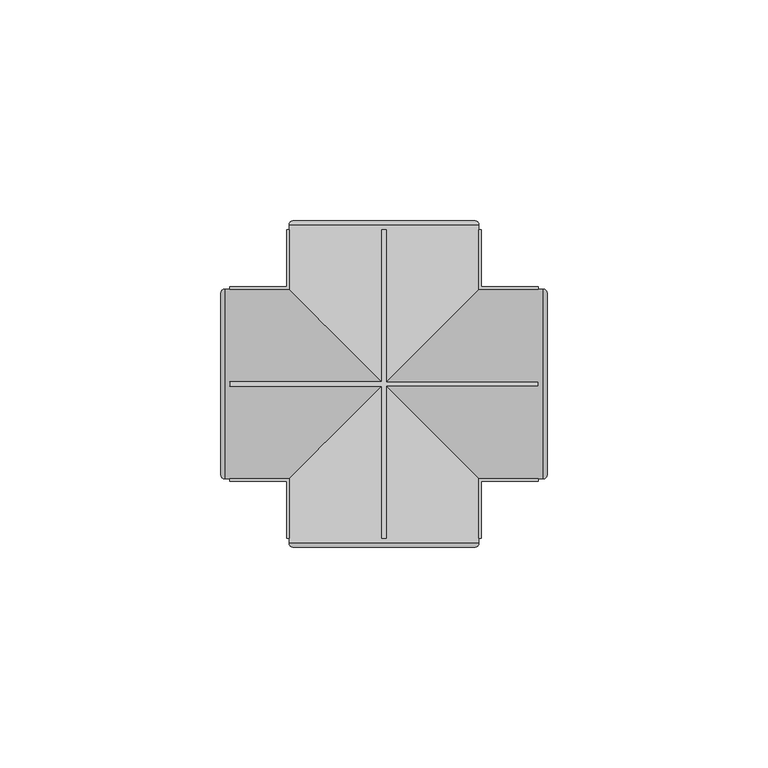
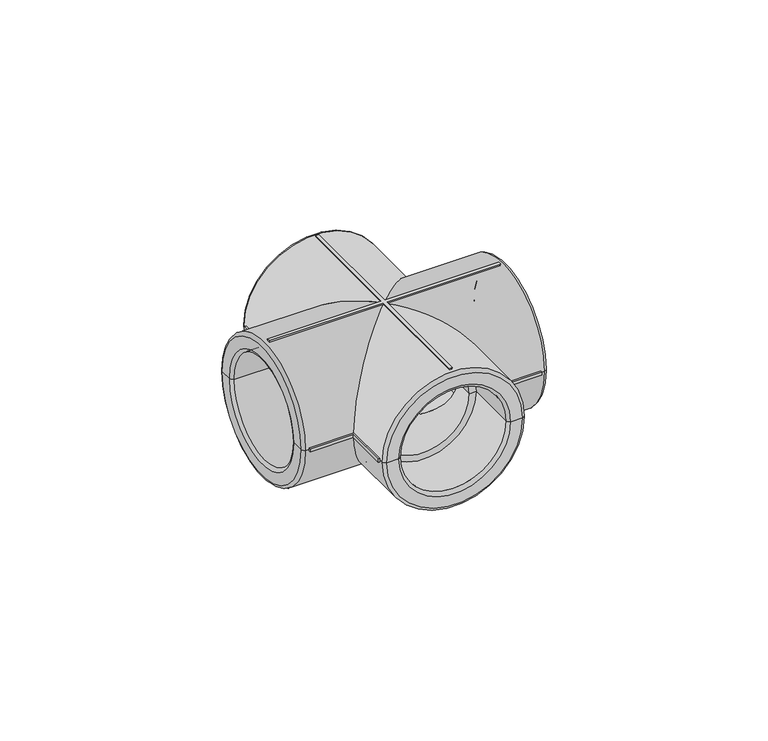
"""IFC4 building model written with IfcOpenShell, lengths in millimetres: pipe fitting geometry, EGB_VASEN_ PPR_Cruz WXR400 : EGB_VASEN_ PPR_Cruz WXR400."""

from ifc_helpers import new_model, si_unit, point, frame, origin, place, context, project, spatial, polyline, circle_curve, ellipse_curve, trimmed, source, transform, mapped, element, save
from ifc_brep_helpers import plane_surface, cylinder_surface, revolved_surface, advanced_brep


def pipe_fitting_7c3a9664(model_context):
    return source(origin(), model_context, "Body", "AdvancedBrep", [
        advanced_brep(
        [(-22.0, -35.0, 0.5), (-22.0, -35.0, -0.5), (-21.4941853, -35.0, -0.5), (-21.5, -35.0, 0.0), (-21.4941853, -35.0, 0.5), (22.0, -35.0, -0.5), (22.0, -35.0, 0.5), (21.4941853, -35.0, 0.5), (21.5, -35.0, 0.0), (21.4941853, -35.0, -0.5), (22.0, 35.0, 0.5), (22.0, 35.0, -0.5), (21.4941853, 35.0, -0.5), (21.5, 35.0, 0.0), (21.4941853, 35.0, 0.5), (-22.0, 35.0, -0.5), (-22.0, 35.0, 0.5), (-21.4941853, 35.0, 0.5), (-21.5, 35.0, 0.0), (-21.4941853, 35.0, -0.5), (22.0, -22.0, -0.5), (22.0, -22.0, 0.5), (22.0, 22.0, 0.5), (22.0, 22.0, -0.5), (21.4941853, -21.4941853, -0.5), (35.0, -21.4941853, -0.5), (35.0, -22.0, -0.5), (35.0, 22.0, -0.5), (35.0, 21.4941853, -0.5), (21.4941853, 21.4941853, -0.5), (-22.0, -22.0, -0.5), (-35.0, -22.0, -0.5), (-35.0, -21.4941853, -0.5), (-21.4941853, -21.4941853, -0.5), (-22.0, 22.0, -0.5), (-21.4941853, 21.4941853, -0.5), (-35.0, 21.4941853, -0.5), (-35.0, 22.0, -0.5), (-22.0, -22.0, 0.5), (-22.0, 22.0, 0.5), (35.0, -22.0, 0.5), (35.0, -21.4941853, 0.5), (21.4941853, -21.4941853, 0.5), (21.4941853, 21.4941853, 0.5), (35.0, 21.4941853, 0.5), (35.0, 22.0, 0.5), (-21.4941853, -21.4941853, 0.5), (-35.0, -21.4941853, 0.5), (-35.0, -22.0, 0.5), (-35.0, 22.0, 0.5), (-35.0, 21.4941853, 0.5), (-21.4941853, 21.4941853, 0.5), (35.0, -21.5, 0.0), (35.0, 21.5, 0.0), (-35.0, 21.5, 0.0), (-35.0, -21.5, 0.0), (-20.4999999, 37.0, 0.0), (-17.0, 37.0, 0.0), (17.0, 37.0, 0.0), (20.5, 37.0, 0.0), (21.5, -36.0000008, 0.0), (-21.5, -36.0, 0.0), (-0.5, -0.5, -21.4941853), (-0.5, -35.0, -21.4941853), (0.5, -35.0, -21.4941853), (0.5, -0.5, -21.4941853), (-21.5, 36.0, 0.0), (21.5, 36.0, 0.0), (0.5, 0.5, -21.4941853), (0.5, 35.0, -21.4941853), (-0.5, 35.0, -21.4941853), (-0.5, 0.5, -21.4941853), (0.5, -0.5, 21.4941853), (0.5, -35.0, 21.4941853), (-0.5, -35.0, 21.4941853), (-0.5, -0.5, 21.4941853), (-0.5, 0.5, 21.4941853), (-0.5, 35.0, 21.4941853), (0.5, 35.0, 21.4941853), (0.5, 0.5, 21.4941853), (20.5, -37.0, 0.0), (17.0, -37.0, 0.0), (-17.0, -37.0, 0.0), (-20.5, -37.0, 0.0), (36.0, 21.5, 0.0), (36.0, -21.5, 0.0), (35.0, -0.5, -21.4941853), (35.0, 0.5, -21.4941853), (-35.0, 0.5, -21.4941853), (-35.0, -0.5, -21.4941853), (-36.0000009, -21.5, 0.0), (-36.0, 21.5, 0.0), (35.0, 0.5, 21.4941853), (35.0, -0.5, 21.4941853), (-35.0, -0.5, 21.4941853), (-35.0, 0.5, 21.4941853), (-37.0, -20.5, 0.0), (-37.0, -17.0, 0.0), (-37.0, 17.0, 0.0), (-37.0, 20.5, 0.0), (37.0, 20.4999999, 0.0), (37.0, 17.0, 0.0), (37.0, -17.0, 0.0), (37.0, -20.5, 0.0), (35.0, 0.5, 22.0), (35.0, -0.5, 22.0), (35.0, -0.5, -22.0), (35.0, 0.5, -22.0), (-35.0, 0.5, -22.0), (-35.0, -0.5, -22.0), (-35.0, -0.5, 22.0), (-35.0, 0.5, 22.0), (0.5, 0.5, 22.0), (0.5, 35.0, 22.0), (-0.5, 35.0, 22.0), (-0.5, 0.5, 22.0), (-0.5, -0.5, 22.0), (-0.5, -35.0, 22.0), (0.5, -35.0, 22.0), (0.5, -0.5, 22.0), (0.5, -0.5, -22.0), (-0.5, -0.5, -22.0), (0.5, -35.0, -22.0), (-0.5, -35.0, -22.0), (-0.5, 0.5, -22.0), (-0.5, 35.0, -22.0), (0.5, 35.0, -22.0), (0.5, 0.5, -22.0), (16.0, -20.5, 0.0), (14.0, -20.5, 0.0), (-14.0, -20.5, 0.0), (-16.0, -20.5, 0.0), (-16.0, -36.0, 0.0), (16.0, -36.0, 0.0), (16.0, 36.0, 0.0), (-16.0, 36.0, 0.0), (-16.0, 20.5, 0.0), (16.0, 20.5, 0.0), (-14.0, 20.5, 0.0), (14.0, 20.5, 0.0), (14.0, -14.0, 0.0), (0.0, 0.0, -14.0), (-14.0, -14.0, 0.0), (-14.0, 14.0, 0.0), (14.0, 14.0, 0.0), (0.0, 0.0, 14.0), (36.0, -16.0, 0.0), (36.0, 16.0, 0.0), (20.5, 16.0, 0.0), (20.5, -16.0, 0.0), (20.5, 14.0, 0.0), (20.5, -14.0, 0.0), (-20.5, 14.0, 0.0), (-20.5, -14.0, 0.0), (-20.5, 16.0, 0.0), (-20.5, -16.0, 0.0), (-36.0, 16.0, 0.0), (-36.0, -16.0, 0.0)],
        [
            (0, 1),
            (1, 2),
            (2, 3, circle_curve(frame((0.0, -35.0, 0.0), z_axis=(0.0, 1.0, 0.0), x_axis=(-1.0, 0.0, 0.0)), 21.5)),
            (3, 4, circle_curve(frame((0.0, -35.0, 0.0), z_axis=(0.0, 1.0, 0.0), x_axis=(-1.0, 0.0, 0.0)), 21.5)),
            (4, 0),
            (5, 6),
            (6, 7),
            (7, 8, circle_curve(frame((0.0, -35.0, 0.0), z_axis=(0.0, 1.0, 0.0), x_axis=(-1.0, 0.0, 0.0)), 21.5)),
            (8, 9, circle_curve(frame((0.0, -35.0, 0.0), z_axis=(0.0, 1.0, 0.0), x_axis=(-1.0, 0.0, 0.0)), 21.5)),
            (9, 5),
            (10, 11),
            (11, 12),
            (12, 13, circle_curve(frame((0.0, 35.0, 0.0), z_axis=(0.0, -1.0, 0.0), x_axis=(-1.0, 0.0, 0.0)), 21.5)),
            (13, 14, circle_curve(frame((0.0, 35.0, 0.0), z_axis=(0.0, -1.0, 0.0), x_axis=(-1.0, 0.0, 0.0)), 21.5)),
            (14, 10),
            (15, 16),
            (16, 17),
            (17, 18, circle_curve(frame((0.0, 35.0, 0.0), z_axis=(0.0, -1.0, 0.0), x_axis=(-1.0, 0.0, 0.0)), 21.5)),
            (18, 19, circle_curve(frame((0.0, 35.0, 0.0), z_axis=(0.0, -1.0, 0.0), x_axis=(-1.0, 0.0, 0.0)), 21.5)),
            (19, 15),
            (5, 20),
            (20, 21),
            (21, 6),
            (10, 22),
            (22, 23),
            (23, 11),
            (9, 24),
            (24, 25),
            (25, 26),
            (26, 20),
            (23, 27),
            (27, 28),
            (28, 29),
            (29, 12),
            (1, 30),
            (30, 31),
            (31, 32),
            (32, 33),
            (33, 2),
            (34, 15),
            (19, 35),
            (35, 36),
            (36, 37),
            (37, 34),
            (0, 38),
            (38, 30),
            (34, 39),
            (39, 16),
            (21, 40),
            (40, 41),
            (41, 42),
            (42, 7),
            (14, 43),
            (43, 44),
            (44, 45),
            (45, 22),
            (4, 46),
            (46, 47),
            (47, 48),
            (48, 38),
            (39, 49),
            (49, 50),
            (50, 51),
            (51, 17),
            (40, 26),
            (25, 52, circle_curve(frame((35.0, 0.0, 0.0), z_axis=(-1.0, 0.0, 0.0), x_axis=(0.0, 1.0, 0.0)), 21.5)),
            (52, 41, circle_curve(frame((35.0, 0.0, 0.0), z_axis=(-1.0, 0.0, 0.0), x_axis=(0.0, 1.0, 0.0)), 21.5)),
            (27, 45),
            (44, 53, circle_curve(frame((35.0, 0.0, 0.0), z_axis=(-1.0, 0.0, 0.0), x_axis=(0.0, 1.0, 0.0)), 21.5)),
            (53, 28, circle_curve(frame((35.0, 0.0, 0.0), z_axis=(-1.0, 0.0, 0.0), x_axis=(0.0, 1.0, 0.0)), 21.5)),
            (49, 37),
            (36, 54, circle_curve(frame((-35.0, 0.0, 0.0), z_axis=(1.0, 0.0, 0.0), x_axis=(0.0, 1.0, 0.0)), 21.5)),
            (54, 50, circle_curve(frame((-35.0, 0.0, 0.0), z_axis=(1.0, 0.0, 0.0), x_axis=(0.0, 1.0, 0.0)), 21.5)),
            (31, 48),
            (47, 55, circle_curve(frame((-35.0, 0.0, 0.0), z_axis=(1.0, 0.0, 0.0), x_axis=(0.0, 1.0, 0.0)), 21.5)),
            (55, 32, circle_curve(frame((-35.0, 0.0, 0.0), z_axis=(1.0, 0.0, 0.0), x_axis=(0.0, 1.0, 0.0)), 21.5)),
            (56, 57),
            (57, 58, circle_curve(frame((0.0, 37.0, 0.0), z_axis=(0.0, -1.0, 0.0), x_axis=(-1.0, 0.0, 0.0)), 17.0)),
            (58, 59),
            (59, 56, circle_curve(frame((0.0, 37.0, 0.0), z_axis=(0.0, 1.0, 0.0), x_axis=(-1.0, 0.0, 0.0)), 20.5)),
            (56, 59, circle_curve(frame((0.0, 37.0, 0.0), z_axis=(0.0, 1.0, 0.0), x_axis=(-1.0, 0.0, 0.0)), 20.5)),
            (58, 57, circle_curve(frame((0.0, 37.0, 0.0), z_axis=(0.0, -1.0, 0.0), x_axis=(-1.0, 0.0, 0.0)), 17.0)),
            (8, 60),
            (60, 61, circle_curve(frame((0.0, -36.0, 0.0), z_axis=(0.0, 1.0, 0.0), x_axis=(-1.0, 0.0, 0.0)), 21.5)),
            (61, 3),
            (33, 62, ellipse_curve(frame((0.0, 0.0, 0.0), z_axis=(0.7071067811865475, -0.7071067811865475, 0.0), x_axis=(-0.7071067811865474, -0.7071067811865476, 0.0)), 30.4055916, 21.5)),
            (62, 63),
            (63, 64, circle_curve(frame((0.0, -35.0, 0.0), z_axis=(0.0, -1.0, 0.0), x_axis=(-1.0, 0.0, 0.0)), 21.5)),
            (64, 65),
            (65, 24, ellipse_curve(frame((0.0, 0.0, 0.0), z_axis=(-0.7071067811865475, -0.7071067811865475, 0.0), x_axis=(0.7071067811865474, -0.7071067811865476, 0.0)), 30.4055916, 21.5)),
            (18, 66),
            (66, 67, circle_curve(frame((0.0, 36.0, 0.0), z_axis=(0.0, -1.0, 0.0), x_axis=(-1.0, 0.0, 0.0)), 21.5)),
            (67, 13),
            (29, 68, ellipse_curve(frame((0.0, 0.0, 0.0), z_axis=(-0.7071067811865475, 0.7071067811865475, 0.0), x_axis=(-0.7071067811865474, -0.7071067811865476, 0.0)), 30.4055916, 21.5)),
            (68, 69),
            (69, 70, circle_curve(frame((0.0, 35.0, 0.0), z_axis=(0.0, 1.0, 0.0), x_axis=(-1.0, 0.0, 0.0)), 21.5)),
            (70, 71),
            (71, 35, ellipse_curve(frame((0.0, 0.0, 0.0), z_axis=(0.7071067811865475, 0.7071067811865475, 0.0), x_axis=(0.7071067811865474, -0.7071067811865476, 0.0)), 30.4055916, 21.5)),
            (61, 60, circle_curve(frame((0.0, -36.0, 0.0), z_axis=(0.0, 1.0, 0.0), x_axis=(-1.0, 0.0, 0.0)), 21.5)),
            (42, 72, ellipse_curve(frame((0.0, 0.0, 0.0), z_axis=(-0.7071067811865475, -0.7071067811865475, 0.0), x_axis=(0.7071067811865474, -0.7071067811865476, 0.0)), 30.4055916, 21.5)),
            (72, 73),
            (73, 74, circle_curve(frame((0.0, -35.0, 0.0), z_axis=(0.0, -1.0, 0.0), x_axis=(-1.0, 0.0, 0.0)), 21.5)),
            (74, 75),
            (75, 46, ellipse_curve(frame((0.0, 0.0, 0.0), z_axis=(0.7071067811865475, -0.7071067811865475, 0.0), x_axis=(-0.7071067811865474, -0.7071067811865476, 0.0)), 30.4055916, 21.5)),
            (67, 66, circle_curve(frame((0.0, 36.0, 0.0), z_axis=(0.0, -1.0, 0.0), x_axis=(-1.0, 0.0, 0.0)), 21.5)),
            (51, 76, ellipse_curve(frame((0.0, 0.0, 0.0), z_axis=(0.7071067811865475, 0.7071067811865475, 0.0), x_axis=(0.7071067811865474, -0.7071067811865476, 0.0)), 30.4055916, 21.5)),
            (76, 77),
            (77, 78, circle_curve(frame((0.0, 35.0, 0.0), z_axis=(0.0, 1.0, 0.0), x_axis=(-1.0, 0.0, 0.0)), 21.5)),
            (78, 79),
            (79, 43, ellipse_curve(frame((0.0, 0.0, 0.0), z_axis=(-0.7071067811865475, 0.7071067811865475, 0.0), x_axis=(-0.7071067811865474, -0.7071067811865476, 0.0)), 30.4055916, 21.5)),
            (80, 81),
            (81, 82, circle_curve(frame((0.0, -37.0, 0.0), z_axis=(0.0, 1.0, 0.0), x_axis=(-1.0, 0.0, 0.0)), 17.0)),
            (82, 83),
            (83, 80, circle_curve(frame((0.0, -37.0, 0.0), z_axis=(0.0, -1.0, 0.0), x_axis=(-1.0, 0.0, 0.0)), 20.5)),
            (80, 83, circle_curve(frame((0.0, -37.0, 0.0), z_axis=(0.0, -1.0, 0.0), x_axis=(-1.0, 0.0, 0.0)), 20.5)),
            (82, 81, circle_curve(frame((0.0, -37.0, 0.0), z_axis=(0.0, 1.0, 0.0), x_axis=(-1.0, 0.0, 0.0)), 17.0)),
            (53, 84),
            (84, 85, circle_curve(frame((36.0, 0.0, 0.0), z_axis=(-1.0, 0.0, 0.0), x_axis=(0.0, 1.0, 0.0)), 21.5)),
            (85, 52),
            (65, 86),
            (86, 87, circle_curve(frame((35.0, 0.0, 0.0), z_axis=(1.0, 0.0, 0.0), x_axis=(0.0, 1.0, 0.0)), 21.5)),
            (87, 68),
            (71, 88),
            (88, 89, circle_curve(frame((-35.0, 0.0, 0.0), z_axis=(-1.0, 0.0, 0.0), x_axis=(0.0, 1.0, 0.0)), 21.5)),
            (89, 62),
            (55, 90),
            (90, 91, circle_curve(frame((-36.0, 0.0, 0.0), z_axis=(1.0, 0.0, 0.0), x_axis=(0.0, 1.0, 0.0)), 21.5)),
            (91, 54),
            (79, 92),
            (92, 93, circle_curve(frame((35.0, 0.0, 0.0), z_axis=(1.0, 0.0, 0.0), x_axis=(0.0, 1.0, 0.0)), 21.5)),
            (93, 72),
            (85, 84, circle_curve(frame((36.0, 0.0, 0.0), z_axis=(-1.0, 0.0, 0.0), x_axis=(0.0, 1.0, 0.0)), 21.5)),
            (91, 90, circle_curve(frame((-36.0, 0.0, 0.0), z_axis=(1.0, 0.0, 0.0), x_axis=(0.0, 1.0, 0.0)), 21.5)),
            (75, 94),
            (94, 95, circle_curve(frame((-35.0, 0.0, 0.0), z_axis=(-1.0, 0.0, 0.0), x_axis=(0.0, 1.0, 0.0)), 21.5)),
            (95, 76),
            (96, 97),
            (97, 98, circle_curve(frame((-37.0, 0.0, 0.0), z_axis=(1.0, 0.0, 0.0), x_axis=(0.0, 1.0, 0.0)), 17.0)),
            (98, 99),
            (99, 96, circle_curve(frame((-37.0, 0.0, 0.0), z_axis=(-1.0, 0.0, 0.0), x_axis=(0.0, 1.0, 0.0)), 20.5)),
            (96, 99, circle_curve(frame((-37.0, 0.0, 0.0), z_axis=(-1.0, 0.0, 0.0), x_axis=(0.0, 1.0, 0.0)), 20.5)),
            (98, 97, circle_curve(frame((-37.0, 0.0, 0.0), z_axis=(1.0, 0.0, 0.0), x_axis=(0.0, 1.0, 0.0)), 17.0)),
            (100, 101),
            (101, 102, circle_curve(frame((37.0, 0.0, 0.0), z_axis=(-1.0, 0.0, 0.0), x_axis=(0.0, 1.0, 0.0)), 17.0)),
            (102, 103),
            (103, 100, circle_curve(frame((37.0, 0.0, 0.0), z_axis=(1.0, 0.0, 0.0), x_axis=(0.0, 1.0, 0.0)), 20.5)),
            (100, 103, circle_curve(frame((37.0, 0.0, 0.0), z_axis=(1.0, 0.0, 0.0), x_axis=(0.0, 1.0, 0.0)), 20.5)),
            (102, 101, circle_curve(frame((37.0, 0.0, 0.0), z_axis=(-1.0, 0.0, 0.0), x_axis=(0.0, 1.0, 0.0)), 17.0)),
            (104, 105),
            (105, 93),
            (92, 104),
            (106, 107),
            (107, 87),
            (86, 106),
            (108, 109),
            (109, 89),
            (88, 108),
            (110, 111),
            (111, 95),
            (94, 110),
            (104, 112),
            (112, 113),
            (113, 114),
            (114, 115),
            (115, 111),
            (110, 116),
            (116, 117),
            (117, 118),
            (118, 119),
            (119, 105),
            (119, 72),
            (65, 120),
            (120, 106),
            (109, 121),
            (121, 62),
            (75, 116),
            (120, 122),
            (122, 123),
            (123, 121),
            (108, 124),
            (124, 125),
            (125, 126),
            (126, 127),
            (127, 107),
            (79, 112),
            (127, 68),
            (71, 124),
            (115, 76),
            (117, 74),
            (73, 118),
            (122, 64),
            (63, 123),
            (113, 78),
            (77, 114),
            (125, 70),
            (69, 126),
            (128, 129),
            (129, 130, circle_curve(frame((0.0, -20.5, 0.0), z_axis=(0.0, 1.0, 0.0), x_axis=(-1.0, 0.0, 0.0)), 14.0)),
            (130, 131),
            (131, 128, circle_curve(frame((0.0, -20.5, 0.0), z_axis=(0.0, -1.0, 0.0), x_axis=(-1.0, 0.0, 0.0)), 16.0)),
            (128, 131, circle_curve(frame((0.0, -20.5, 0.0), z_axis=(0.0, -1.0, 0.0), x_axis=(-1.0, 0.0, 0.0)), 16.0)),
            (130, 129, circle_curve(frame((0.0, -20.5, 0.0), z_axis=(0.0, 1.0, 0.0), x_axis=(-1.0, 0.0, 0.0)), 14.0)),
            (131, 132),
            (132, 133, circle_curve(frame((0.0, -36.0, 0.0), z_axis=(0.0, -1.0, 0.0), x_axis=(-1.0, 0.0, 0.0)), 16.0)),
            (133, 128),
            (133, 132, circle_curve(frame((0.0, -36.0, 0.0), z_axis=(0.0, -1.0, 0.0), x_axis=(-1.0, 0.0, 0.0)), 16.0)),
            (132, 82, circle_curve(frame((-17.0, -36.0, 0.0), z_axis=(0.0, 0.0, -1.0), x_axis=(1.0, 0.0, 0.0)), 1.0)),
            (81, 133, circle_curve(frame((17.0, -36.0, 0.0), z_axis=(0.0, 0.0, -1.0), x_axis=(-1.0, 0.0, 0.0)), 1.0)),
            (134, 58, circle_curve(frame((17.0, 36.0, 0.0), z_axis=(0.0, 0.0, -1.0), x_axis=(-1.0, 0.0, 0.0)), 1.0)),
            (57, 135, circle_curve(frame((-17.0, 36.0, 0.0), z_axis=(0.0, 0.0, -1.0), x_axis=(1.0, 0.0, 0.0)), 1.0)),
            (135, 134, circle_curve(frame((0.0, 36.0, 0.0), z_axis=(0.0, -1.0, 0.0), x_axis=(-1.0, 0.0, 0.0)), 16.0)),
            (134, 135, circle_curve(frame((0.0, 36.0, 0.0), z_axis=(0.0, -1.0, 0.0), x_axis=(-1.0, 0.0, 0.0)), 16.0)),
            (135, 136),
            (136, 137, circle_curve(frame((0.0, 20.5, 0.0), z_axis=(0.0, -1.0, 0.0), x_axis=(-1.0, 0.0, 0.0)), 16.0)),
            (137, 134),
            (137, 136, circle_curve(frame((0.0, 20.5, 0.0), z_axis=(0.0, -1.0, 0.0), x_axis=(-1.0, 0.0, 0.0)), 16.0)),
            (136, 138),
            (138, 139, circle_curve(frame((0.0, 20.5, 0.0), z_axis=(0.0, -1.0, 0.0), x_axis=(-1.0, 0.0, 0.0)), 14.0)),
            (139, 137),
            (139, 138, circle_curve(frame((0.0, 20.5, 0.0), z_axis=(0.0, -1.0, 0.0), x_axis=(-1.0, 0.0, 0.0)), 14.0)),
            (129, 140),
            (140, 141, ellipse_curve(frame((0.0, 0.0, 0.0), z_axis=(0.7071067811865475, 0.7071067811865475, 0.0), x_axis=(0.7071067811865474, -0.7071067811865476, 0.0)), 19.7989899, 14.0)),
            (141, 142, ellipse_curve(frame((0.0, 0.0, 0.0), z_axis=(-0.7071067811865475, 0.7071067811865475, 0.0), x_axis=(-0.7071067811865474, -0.7071067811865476, 0.0)), 19.7989899, 14.0)),
            (142, 130),
            (138, 143),
            (143, 141, ellipse_curve(frame((0.0, 0.0, 0.0), z_axis=(-0.7071067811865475, -0.7071067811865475, 0.0), x_axis=(0.7071067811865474, -0.7071067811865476, 0.0)), 19.7989899, 14.0)),
            (141, 144, ellipse_curve(frame((0.0, 0.0, 0.0), z_axis=(0.7071067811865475, -0.7071067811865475, 0.0), x_axis=(-0.7071067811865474, -0.7071067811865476, 0.0)), 19.7989899, 14.0)),
            (144, 139),
            (142, 145, ellipse_curve(frame((0.0, 0.0, 0.0), z_axis=(-0.7071067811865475, 0.7071067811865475, 0.0), x_axis=(-0.7071067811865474, -0.7071067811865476, 0.0)), 19.7989899, 14.0)),
            (145, 140, ellipse_curve(frame((0.0, 0.0, 0.0), z_axis=(0.7071067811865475, 0.7071067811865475, 0.0), x_axis=(0.7071067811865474, -0.7071067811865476, 0.0)), 19.7989899, 14.0)),
            (144, 145, ellipse_curve(frame((0.0, 0.0, 0.0), z_axis=(0.7071067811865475, -0.7071067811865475, 0.0), x_axis=(-0.7071067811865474, -0.7071067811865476, 0.0)), 19.7989899, 14.0)),
            (145, 143, ellipse_curve(frame((0.0, 0.0, 0.0), z_axis=(-0.7071067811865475, -0.7071067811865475, 0.0), x_axis=(0.7071067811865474, -0.7071067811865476, 0.0)), 19.7989899, 14.0)),
            (59, 67, circle_curve(frame((20.5, 36.0, 0.0), z_axis=(0.0, 0.0, -1.0), x_axis=(-1.0, 0.0, 0.0)), 1.0)),
            (66, 56, circle_curve(frame((-20.5, 36.0, 0.0), z_axis=(0.0, 0.0, -1.0), x_axis=(1.0, 0.0, 0.0)), 1.0)),
            (60, 80, circle_curve(frame((20.5, -36.0, 0.0), z_axis=(0.0, 0.0, -1.0), x_axis=(-1.0, 0.0, 0.0)), 1.0)),
            (83, 61, circle_curve(frame((-20.5, -36.0, 0.0), z_axis=(0.0, 0.0, -1.0), x_axis=(1.0, 0.0, 0.0)), 1.0)),
            (103, 85, circle_curve(frame((36.0, -20.5, 0.0), z_axis=(0.0, 0.0, -1.0), x_axis=(1.0, 0.0, 0.0)), 1.0)),
            (84, 100, circle_curve(frame((36.0, 20.5, 0.0), z_axis=(0.0, 0.0, -1.0), x_axis=(1.0, 0.0, 0.0)), 1.0)),
            (146, 102, circle_curve(frame((36.0, -17.0, 0.0), z_axis=(0.0, 0.0, -1.0), x_axis=(1.0, 0.0, 0.0)), 1.0)),
            (101, 147, circle_curve(frame((36.0, 17.0, 0.0), z_axis=(0.0, 0.0, -1.0), x_axis=(1.0, 0.0, 0.0)), 1.0)),
            (147, 146, circle_curve(frame((36.0, 0.0, 0.0), z_axis=(-1.0, 0.0, 0.0), x_axis=(0.0, 1.0, 0.0)), 16.0)),
            (146, 147, circle_curve(frame((36.0, 0.0, 0.0), z_axis=(-1.0, 0.0, 0.0), x_axis=(0.0, 1.0, 0.0)), 16.0)),
            (147, 148),
            (148, 149, circle_curve(frame((20.5, 0.0, 0.0), z_axis=(-1.0, 0.0, 0.0), x_axis=(0.0, 1.0, 0.0)), 16.0)),
            (149, 146),
            (149, 148, circle_curve(frame((20.5, 0.0, 0.0), z_axis=(-1.0, 0.0, 0.0), x_axis=(0.0, 1.0, 0.0)), 16.0)),
            (148, 150),
            (150, 151, circle_curve(frame((20.5, 0.0, 0.0), z_axis=(-1.0, 0.0, 0.0), x_axis=(0.0, 1.0, 0.0)), 14.0)),
            (151, 149),
            (151, 150, circle_curve(frame((20.5, 0.0, 0.0), z_axis=(-1.0, 0.0, 0.0), x_axis=(0.0, 1.0, 0.0)), 14.0)),
            (150, 144),
            (140, 151),
            (152, 153, circle_curve(frame((-20.5, 0.0, 0.0), z_axis=(-1.0, 0.0, 0.0), x_axis=(0.0, 1.0, 0.0)), 14.0)),
            (153, 142),
            (143, 152),
            (153, 152, circle_curve(frame((-20.5, 0.0, 0.0), z_axis=(-1.0, 0.0, 0.0), x_axis=(0.0, 1.0, 0.0)), 14.0)),
            (152, 154),
            (154, 155, circle_curve(frame((-20.5, 0.0, 0.0), z_axis=(-1.0, 0.0, 0.0), x_axis=(0.0, 1.0, 0.0)), 16.0)),
            (155, 153),
            (155, 154, circle_curve(frame((-20.5, 0.0, 0.0), z_axis=(-1.0, 0.0, 0.0), x_axis=(0.0, 1.0, 0.0)), 16.0)),
            (154, 156),
            (156, 157, circle_curve(frame((-36.0, 0.0, 0.0), z_axis=(-1.0, 0.0, 0.0), x_axis=(0.0, 1.0, 0.0)), 16.0)),
            (157, 155),
            (157, 156, circle_curve(frame((-36.0, 0.0, 0.0), z_axis=(-1.0, 0.0, 0.0), x_axis=(0.0, 1.0, 0.0)), 16.0)),
            (156, 98, circle_curve(frame((-36.0, 17.0, 0.0), z_axis=(0.0, 0.0, -1.0), x_axis=(1.0, 0.0, 0.0)), 1.0)),
            (97, 157, circle_curve(frame((-36.0, -17.0, 0.0), z_axis=(0.0, 0.0, -1.0), x_axis=(1.0, 0.0, 0.0)), 1.0)),
            (90, 96, circle_curve(frame((-36.0, -20.5, 0.0), z_axis=(0.0, 0.0, -1.0), x_axis=(1.0, 0.0, 0.0)), 1.0)),
            (99, 91, circle_curve(frame((-36.0, 20.5, 0.0), z_axis=(0.0, 0.0, -1.0), x_axis=(1.0, 0.0, 0.0)), 1.0)),
        ],
        [
            plane_surface(frame((22.0, -35.0, 0.5), z_axis=(0.0, -1.0, 0.0), x_axis=(0.0, 0.0, 1.0))),
            plane_surface(frame((22.0, 35.0, 0.5), z_axis=(0.0, 1.0, 0.0), x_axis=(0.0, 0.0, -1.0))),
            plane_surface(frame((22.0, 35.0, 0.5), z_axis=(1.0, 0.0, 0.0), x_axis=(0.0, -1.0, 0.0))),
            plane_surface(frame((22.0, 35.0, -0.5), z_axis=(0.0, 0.0, -1.0), x_axis=(0.0, -1.0, 0.0))),
            plane_surface(frame((-22.0, 35.0, -0.5), z_axis=(-1.0, 0.0, 0.0), x_axis=(0.0, -1.0, 0.0))),
            plane_surface(frame((-22.0, 35.0, 0.5), z_axis=(0.0, 0.0, 1.0), x_axis=(0.0, -1.0, 0.0))),
            plane_surface(frame((35.0, -22.0, 0.5), z_axis=(1.0, 0.0, 0.0), x_axis=(0.0, -1.0, 0.0))),
            plane_surface(frame((-35.0, -22.0, 0.5), z_axis=(-1.0, 0.0, 0.0), x_axis=(0.0, 1.0, 0.0))),
            plane_surface(frame((35.0, -22.0, 0.5), z_axis=(0.0, -1.0, 0.0), x_axis=(-1.0, 0.0, 0.0))),
            plane_surface(frame((35.0, 22.0, -0.5), z_axis=(0.0, 1.0, 0.0), x_axis=(-1.0, 0.0, 0.0))),
            plane_surface(frame((0.0, 37.0, 0.0), z_axis=(0.0, 1.0, 0.0), x_axis=(-1.0, 0.0, 0.0))),
            cylinder_surface(frame((0.0, 2010.0, 0.0), z_axis=(0.0, -1.0, 0.0), x_axis=(-1.0, 0.0, 0.0)), 21.5),
            plane_surface(frame((0.0, -37.0, 0.0), z_axis=(0.0, -1.0, 0.0), x_axis=(-1.0, 0.0, 0.0))),
            cylinder_surface(frame((2010.0, 0.0, 0.0), z_axis=(-1.0, 0.0, 0.0), x_axis=(0.0, 1.0, 0.0)), 21.5),
            plane_surface(frame((-37.0, 0.0, 0.0), z_axis=(-1.0, 0.0, 0.0), x_axis=(0.0, 1.0, 0.0))),
            plane_surface(frame((37.0, 0.0, 0.0), z_axis=(1.0, 0.0, 0.0), x_axis=(0.0, 1.0, 0.0))),
            plane_surface(frame((35.0, -0.5, 22.0), z_axis=(1.0, 0.0, 0.0), x_axis=(0.0, -1.0, 0.0))),
            plane_surface(frame((-35.0, -0.5, 22.0), z_axis=(-1.0, 0.0, 0.0), x_axis=(0.0, 1.0, 0.0))),
            plane_surface(frame((35.0, 0.5, 22.0), z_axis=(0.0, 0.0, 1.0), x_axis=(-1.0, 0.0, 0.0))),
            plane_surface(frame((35.0, -0.5, 22.0), z_axis=(0.0, -1.0, 0.0), x_axis=(-1.0, 0.0, 0.0))),
            plane_surface(frame((35.0, -0.5, -22.0), z_axis=(0.0, 0.0, -1.0), x_axis=(-1.0, 0.0, 0.0))),
            plane_surface(frame((35.0, 0.5, -22.0), z_axis=(0.0, 1.0, 0.0), x_axis=(-1.0, 0.0, 0.0))),
            plane_surface(frame((0.5, -35.0, 22.0), z_axis=(0.0, -1.0, 0.0), x_axis=(0.0, 0.0, 1.0))),
            plane_surface(frame((0.5, 35.0, 22.0), z_axis=(0.0, 1.0, 0.0), x_axis=(0.0, 0.0, -1.0))),
            plane_surface(frame((0.5, 35.0, 22.0), z_axis=(1.0, 0.0, 0.0), x_axis=(0.0, -1.0, 0.0))),
            plane_surface(frame((-0.5, 35.0, -22.0), z_axis=(-1.0, 0.0, 0.0), x_axis=(0.0, -1.0, 0.0))),
            plane_surface(frame((0.0, -20.5, 0.0), z_axis=(0.0, -1.0, 0.0), x_axis=(-1.0, 0.0, 0.0))),
            revolved_surface(polyline([(-16.0, -36.0, 0.0), (-16.0, -20.5, 0.0)]), (0.0, 2010.0, 0.0), (0.0, -1.0, 0.0)),
            revolved_surface(trimmed(ellipse_curve(frame((-17.0, -36.0, 0.0), z_axis=(0.0, 0.0, 1.0), x_axis=(1.0, 0.0, 0.0)), 1.0, 1.0), [point((-17.0, -37.0, 0.0))], [point((-16.0, -36.0, 0.0))], True, "CARTESIAN"), (0.0, 2010.0, 0.0), (0.0, -1.0, 0.0)),
            revolved_surface(trimmed(ellipse_curve(frame((-17.0, 36.0, 0.0), z_axis=(0.0, 0.0, 1.0), x_axis=(1.0, 0.0, 0.0)), 1.0, 1.0), [point((-16.0, 36.0, 0.0))], [point((-17.0, 37.0, 0.0))], True, "CARTESIAN"), (0.0, 2010.0, 0.0), (0.0, -1.0, 0.0)),
            revolved_surface(polyline([(-16.0, 20.5, 0.0), (-16.0, 36.0, 0.0)]), (0.0, 2010.0, 0.0), (0.0, -1.0, 0.0)),
            plane_surface(frame((0.0, 20.5, 0.0), z_axis=(0.0, 1.0, 0.0), x_axis=(-1.0, 0.0, 0.0))),
            revolved_surface(polyline([(-14.0, -20.5, 0.0), (-14.0, 14.00000001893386, 0.0)]), (0.0, 2010.0, 0.0), (0.0, -1.0, 0.0)),
            revolved_surface(polyline([(-14.0, -14.00000001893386, 0.0), (-14.0, 20.5, 0.0)]), (0.0, 2010.0, 0.0), (0.0, -1.0, 0.0)),
            revolved_surface(trimmed(ellipse_curve(frame((-20.5, 36.0, 0.0), z_axis=(0.0, 0.0, 1.0), x_axis=(1.0, 0.0, 0.0)), 1.0, 1.0), [point((-20.5, 37.0, 0.0))], [point((-21.5, 36.0, 0.0))], True, "CARTESIAN"), (0.0, 2010.0, 0.0), (0.0, -1.0, 0.0)),
            revolved_surface(trimmed(ellipse_curve(frame((-20.5, -36.0, 0.0), z_axis=(0.0, 0.0, 1.0), x_axis=(1.0, 0.0, 0.0)), 1.0, 1.0), [point((-21.5, -36.0, 0.0))], [point((-20.5, -37.0, 0.0))], True, "CARTESIAN"), (0.0, 2010.0, 0.0), (0.0, -1.0, 0.0)),
            revolved_surface(trimmed(ellipse_curve(frame((36.0, 20.5, 0.0), z_axis=(0.0, 0.0, 1.0), x_axis=(1.0, 0.0, 0.0)), 1.0, 1.0), [point((37.0, 20.5, 0.0))], [point((36.0, 21.5, 0.0))], True, "CARTESIAN"), (2010.0, 0.0, 0.0), (-1.0, 0.0, 0.0)),
            revolved_surface(trimmed(ellipse_curve(frame((36.0, 17.0, 0.0), z_axis=(0.0, 0.0, 1.0), x_axis=(1.0, 0.0, 0.0)), 1.0, 1.0), [point((36.0, 16.0, 0.0))], [point((37.0, 17.0, 0.0))], True, "CARTESIAN"), (2010.0, 0.0, 0.0), (-1.0, 0.0, 0.0)),
            revolved_surface(polyline([(20.5, 16.0, 0.0), (36.0, 16.0, 0.0)]), (2010.0, 0.0, 0.0), (-1.0, 0.0, 0.0)),
            plane_surface(frame((20.5, 0.0, 0.0), z_axis=(1.0, 0.0, 0.0), x_axis=(0.0, 1.0, 0.0))),
            revolved_surface(polyline([(-14.00000001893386, 14.0, 0.0), (20.5, 14.0, 0.0)]), (2010.0, 0.0, 0.0), (-1.0, 0.0, 0.0)),
            revolved_surface(polyline([(-20.5, 14.0, 0.0), (14.00000001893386, 14.0, 0.0)]), (2010.0, 0.0, 0.0), (-1.0, 0.0, 0.0)),
            plane_surface(frame((-20.5, 0.0, 0.0), z_axis=(-1.0, 0.0, 0.0), x_axis=(0.0, 1.0, 0.0))),
            revolved_surface(polyline([(-36.0, 16.0, 0.0), (-20.5, 16.0, 0.0)]), (2010.0, 0.0, 0.0), (-1.0, 0.0, 0.0)),
            revolved_surface(trimmed(ellipse_curve(frame((-36.0, 17.0, 0.0), z_axis=(0.0, 0.0, 1.0), x_axis=(1.0, 0.0, 0.0)), 1.0, 1.0), [point((-37.0, 17.0, 0.0))], [point((-36.0, 16.0, 0.0))], True, "CARTESIAN"), (2010.0, 0.0, 0.0), (-1.0, 0.0, 0.0)),
            revolved_surface(trimmed(ellipse_curve(frame((-36.0, 20.5, 0.0), z_axis=(0.0, 0.0, 1.0), x_axis=(1.0, 0.0, 0.0)), 1.0, 1.0), [point((-36.0, 21.5, 0.0))], [point((-37.0, 20.5, 0.0))], True, "CARTESIAN"), (2010.0, 0.0, 0.0), (-1.0, 0.0, 0.0)),
        ],
        [
            (0, [[1, 2, 3, 4, 5]]),
            (0, [[6, 7, 8, 9, 10]]),
            (1, [[11, 12, 13, 14, 15]]),
            (1, [[16, 17, 18, 19, 20]]),
            (2, [[-6, 21, 22, 23]]),
            (2, [[-11, 24, 25, 26]]),
            (3, [[-21, -10, 27, 28, 29, 30]]),
            (3, [[-26, 31, 32, 33, 34, -12]]),
            (3, [[35, 36, 37, 38, 39, -2]]),
            (3, [[40, -20, 41, 42, 43, 44]]),
            (4, [[-1, 45, 46, -35]]),
            (4, [[-16, -40, 47, 48]]),
            (5, [[-23, 49, 50, 51, 52, -7]]),
            (5, [[-24, -15, 53, 54, 55, 56]]),
            (5, [[-45, -5, 57, 58, 59, 60]]),
            (5, [[-48, 61, 62, 63, 64, -17]]),
            (6, [[65, -29, 66, 67, -50]]),
            (6, [[68, -55, 69, 70, -32]]),
            (7, [[71, -43, 72, 73, -62]]),
            (7, [[74, -59, 75, 76, -37]]),
            (8, [[-65, -49, -22, -30]]),
            (8, [[-74, -36, -46, -60]]),
            (9, [[-68, -31, -25, -56]]),
            (9, [[-71, -61, -47, -44]]),
            (10, [[77, 78, 79, 80]]),
            (10, [[-77, 81, -79, 82]]),
            (11, [[-9, 83, 84, 85, -3, -39, 86, 87, 88, 89, 90, -27]]),
            (11, [[-19, 91, 92, 93, -13, -34, 94, 95, 96, 97, 98, -41]]),
            (11, [[-4, -85, 99, -83, -8, -52, 100, 101, 102, 103, 104, -57]]),
            (11, [[-14, -93, 105, -91, -18, -64, 106, 107, 108, 109, 110, -53]]),
            (12, [[111, 112, 113, 114]]),
            (12, [[-111, 115, -113, 116]]),
            (13, [[-33, -70, 117, 118, 119, -66, -28, -90, 120, 121, 122, -94]]),
            (13, [[-42, -98, 123, 124, 125, -86, -38, -76, 126, 127, 128, -72]]),
            (13, [[-54, -110, 129, 130, 131, -100, -51, -67, -119, 132, -117, -69]]),
            (13, [[-63, -73, -128, 133, -126, -75, -58, -104, 134, 135, 136, -106]]),
            (14, [[137, 138, 139, 140]]),
            (14, [[-137, 141, -139, 142]]),
            (15, [[143, 144, 145, 146]]),
            (15, [[-143, 147, -145, 148]]),
            (16, [[149, 150, -130, 151]]),
            (16, [[152, 153, -121, 154]]),
            (17, [[155, 156, -124, 157]]),
            (17, [[158, 159, -135, 160]]),
            (18, [[-149, 161, 162, 163, 164, 165, -158, 166, 167, 168, 169, 170]]),
            (19, [[-150, -170, 171, -131]]),
            (19, [[-154, -120, 172, 173]]),
            (19, [[-156, 174, 175, -125]]),
            (19, [[-160, -134, 176, -166]]),
            (20, [[-152, -173, 177, 178, 179, -174, -155, 180, 181, 182, 183, 184]]),
            (21, [[-151, -129, 185, -161]]),
            (21, [[-153, -184, 186, -122]]),
            (21, [[-157, -123, 187, -180]]),
            (21, [[-159, -165, 188, -136]]),
            (22, [[-168, 189, -102, 190]]),
            (22, [[-178, 191, -88, 192]]),
            (23, [[-163, 193, -108, 194]]),
            (23, [[-182, 195, -96, 196]]),
            (24, [[-162, -185, -109, -193]]),
            (24, [[-169, -190, -101, -171]]),
            (24, [[-177, -172, -89, -191]]),
            (24, [[-183, -196, -95, -186]]),
            (25, [[-164, -194, -107, -188]]),
            (25, [[-167, -176, -103, -189]]),
            (25, [[-179, -192, -87, -175]]),
            (25, [[-181, -187, -97, -195]]),
            (26, [[197, 198, 199, 200]]),
            (26, [[-197, 201, -199, 202]]),
            (27, [[-200, 203, 204, 205]]),
            (27, [[-201, -205, 206, -203]]),
            (28, [[-204, 207, -112, 208]]),
            (28, [[-206, -208, -116, -207]]),
            (29, [[209, -78, 210, 211]]),
            (29, [[-209, 212, -210, -82]]),
            (30, [[-211, 213, 214, 215]]),
            (30, [[-212, -215, 216, -213]]),
            (31, [[-214, 217, 218, 219]]),
            (31, [[-216, -219, 220, -217]]),
            (32, [[-198, 221, 222, 223, 224]]),
            (33, [[-218, 225, 226, 227, 228]]),
            (32, [[-202, -224, 229, 230, -221]]),
            (33, [[-220, -228, 231, 232, -225]]),
            (34, [[233, -92, 234, -80]]),
            (34, [[-233, -81, -234, -105]]),
            (35, [[235, -114, 236, -84]]),
            (35, [[-235, -99, -236, -115]]),
            (36, [[237, -118, 238, -146]]),
            (36, [[-237, -147, -238, -132]]),
            (37, [[239, -144, 240, 241]]),
            (37, [[-239, 242, -240, -148]]),
            (38, [[-241, 243, 244, 245]]),
            (38, [[-242, -245, 246, -243]]),
            (39, [[-244, 247, 248, 249]]),
            (39, [[-246, -249, 250, -247]]),
            (40, [[-248, 251, -227, -222, 252]]),
            (41, [[253, 254, -223, -226, 255]]),
            (40, [[-250, -252, -230, -231, -251]]),
            (41, [[256, -255, -232, -229, -254]]),
            (42, [[-253, 257, 258, 259]]),
            (42, [[-256, -259, 260, -257]]),
            (43, [[-258, 261, 262, 263]]),
            (43, [[-260, -263, 264, -261]]),
            (44, [[-262, 265, -138, 266]]),
            (44, [[-264, -266, -142, -265]]),
            (45, [[267, -140, 268, -127]]),
            (45, [[-267, -133, -268, -141]]),
        ],
    ),
    ])


if __name__ == "__main__":
    model = new_model("IFC4")
    model_context = context("Model", 3, world=origin())
    ifc_project = project(units=[si_unit("LENGTHUNIT", "METRE", prefix="MILLI")], contexts=[model_context])
    site = spatial("IfcSite", under=ifc_project)
    building = spatial("IfcBuilding", under=site)
    placement = place(None, origin())
    pipe_fitting_shape = pipe_fitting_7c3a9664(model_context)
    element("IfcPipeFitting", 1, ObjectType="EGB_VASEN_ PPR_Cruz WXR400 : EGB_VASEN_ PPR_Cruz WXR400", at=placement, inside=building, context=model_context, shape_type="MappedRepresentation", body=[
        mapped(pipe_fitting_shape, transform((0.0, 0.0, 0.0), x_axis=(1.0, 0.0, 0.0), y_axis=(0.0, 1.0, 0.0), z_axis=(0.0, 0.0, 1.0))),
    ])
    save(model, "model.ifc")
